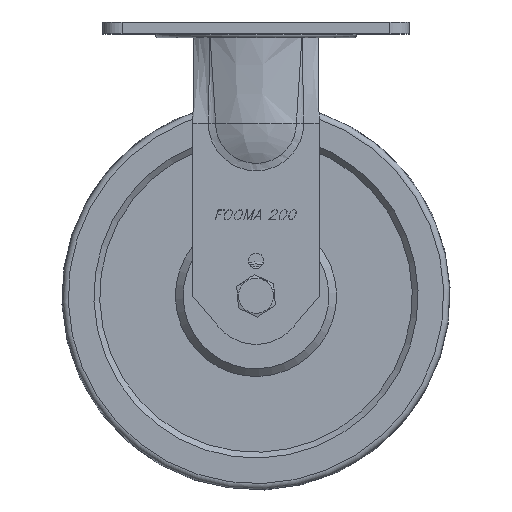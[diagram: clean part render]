
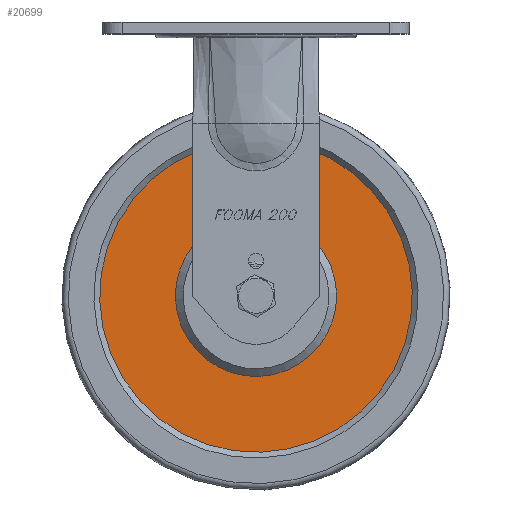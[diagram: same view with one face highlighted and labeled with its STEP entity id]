
A CAD part, top view. The second image highlights one B-rep face of the part: STEP entity #20699.
In plain terms, the highlighted planar face has unit normal (0, 0, 1).
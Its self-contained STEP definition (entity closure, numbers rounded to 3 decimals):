
#5390=FACE_BOUND('',#7532,.T.);
#6406=FACE_OUTER_BOUND('',#7531,.T.);
#7531=EDGE_LOOP('',(#17728));
#7532=EDGE_LOOP('',(#17729));
#7672=CIRCLE('',#21809,80.5);
#7673=CIRCLE('',#21811,41.5);
#9514=VERTEX_POINT('',#33806);
#9515=VERTEX_POINT('',#33809);
#12259=EDGE_CURVE('',#9514,#9514,#7672,.T.);
#12260=EDGE_CURVE('',#9515,#9515,#7673,.T.);
#17728=ORIENTED_EDGE('',*,*,#12259,.T.);
#17729=ORIENTED_EDGE('',*,*,#12260,.F.);
#18677=PLANE('',#21810);
#20699=ADVANCED_FACE('',(#6406,#5390),#18677,.T.);
#21809=AXIS2_PLACEMENT_3D('',#33807,#26528,#26529);
#21810=AXIS2_PLACEMENT_3D('',#33808,#26530,#26531);
#21811=AXIS2_PLACEMENT_3D('',#33810,#26532,#26533);
#26528=DIRECTION('center_axis',(0.,0.,
1.));
#26529=DIRECTION('ref_axis',(0.139,0.99,0.));
#26530=DIRECTION('center_axis',(0.,0.,
1.));
#26531=DIRECTION('ref_axis',(0.139,0.99,0.));
#26532=DIRECTION('center_axis',(0.,0.,
1.));
#26533=DIRECTION('ref_axis',(0.139,0.99,0.));
#33806=CARTESIAN_POINT('',(-89.08,-121.43,21.));
#33807=CARTESIAN_POINT('Origin',(-9.363,-132.63,21.));
#33808=CARTESIAN_POINT('Origin',(-50.46,-126.856,21.));
#33809=CARTESIAN_POINT('',(-50.46,-126.856,21.));
#33810=CARTESIAN_POINT('Origin',(-9.363,-132.63,21.));
